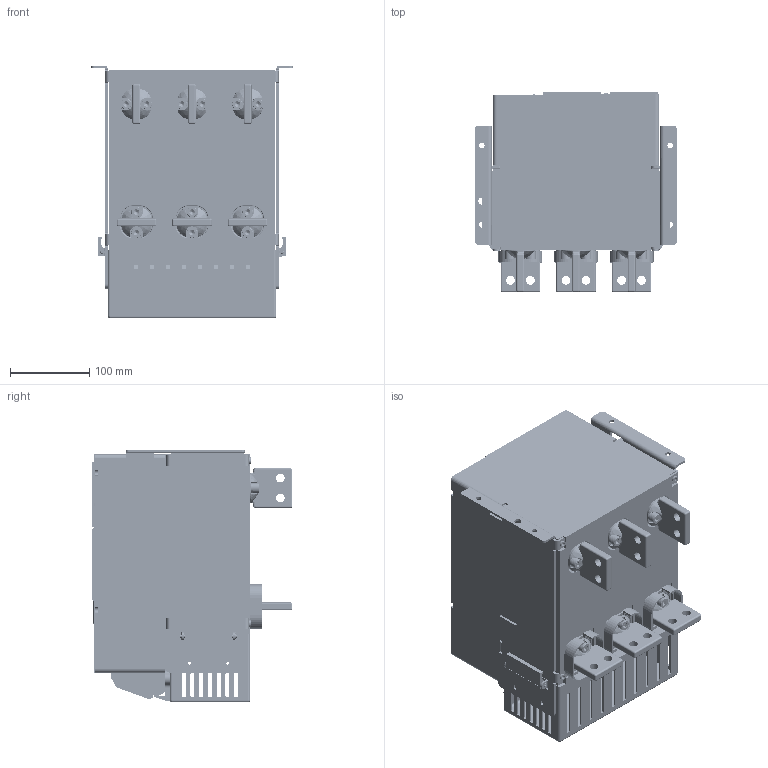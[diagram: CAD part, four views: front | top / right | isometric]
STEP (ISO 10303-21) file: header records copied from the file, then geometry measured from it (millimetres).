
FILE_DESCRIPTION((''),'2;1');
FILE_NAME('NA8-1600-3P-F-400A-800A-HV_ASM','2021-11-06T09:52:13',('lcc'),(''),'CREO PARAMETRIC BY PTC INC, 2020044','CREO PARAMETRIC BY PTC INC, 2020044','');
FILE_SCHEMA(('CONFIG_CONTROL_DESIGN','SHAPE_APPEARANCE_LAYERS_GROUPS'));
Products named in the file (52): 1600-JIZUO-3P; 1600-DIBAN-3P; 8ZTD-050-625; 8123A0726001; 8206A0312004; GBT896-3; 8210A0312014; 5ZTD-050-261_ASM; 8ZTD-050-626; 5ZTD-050-262_ASM; 8ZTD-300-472; 8ZTD-060-205; 8ZTD-321-089; 8ZTD-253-775; 8ZTD-253-776; 8ZTD-281-1000; 8282A0820014; 8ZTD-253-577; 8ZTD-235-356; 5ZTD-302-018_ASM; 8ZTD-064-138; 8ZTD-024-689; 8ZTD-860-511; 1600-DUANZI-CTS_ASM; 8-040-432; 8-004-030; 8-860-KZQ; 8-320-094; 8ZTD_210_353; 5ZTD_253_424_1; 5ZTD_253_424_2; 5ZTD_253_424_3; 5ZTD_253_424_4; 5ZTD_253_424_5; 5ZTD_253_424_6; 5ZTD_253_424_7; 5ZTD_253_424_8; 5ZTD_253_424_9; 5ZTD_253_424_10; 5ZTD_253_424_ASM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
Assembly tree (91 placements, depth 4):
  NA8-1600-3P-F-400A-800A-HV_ASM
    1600-JIZUO-3P
    1600-DIBAN-3P
    5ZTD-050-261_ASM
      8ZTD-050-625
      8123A0726001
      8206A0312004
      GBT896-3  x2
      8210A0312014  x2
    5ZTD-050-262_ASM
      8ZTD-050-626
      8123A0726001
      8206A0312004
      GBT896-3  x2
      8210A0312014  x2
    8ZTD-300-472
    5ZTD-302-018_ASM
      8ZTD-060-205
      8ZTD-321-089
      8ZTD-253-775
      8ZTD-253-776
      8ZTD-281-1000  x2
      8282A0820014
      8ZTD-253-577
      8ZTD-235-356
    1600-DUANZI-CTS_ASM
      8ZTD-064-138
      8ZTD-024-689  x14
      8ZTD-860-511
    8-040-432
    8-004-030
    8-860-KZQ
    8-320-094
    5ZTD-253-442_ASM
      5ZTD_253_424_ASM
        8ZTD_210_353
        5ZTD_253_424_1
        5ZTD_253_424_2
        5ZTD_253_424_3
        5ZTD_253_424_4
        5ZTD_253_424_5
        5ZTD_253_424_6
        5ZTD_253_424_7
        5ZTD_253_424_8
        5ZTD_253_424_9
        5ZTD_253_424_10
      8272A0314002
      8ZTD-206-1571
      GBT93_4
      GBT-6170-M4
      8288A0820012
    8580A0412005  x6
    8ZTD-210-346  x3
    QNKJ0200012_ASM  x12
      GBT70_1-M8X20
      GBT93-8
Bounding box: 254 x 252.18 x 318.5 mm (x, y, z)
Volume: 6579826.1 mm3; surface area: 1413948.1 mm2
Topology: 95 solids, 164 shells, 9274 faces, 25163 edges, 16460 vertices
Faces by surface type: plane 6321, cylinder 1651, extrusion 790, cone 239, bspline 132, torus 92, sphere 49
Entity records: 289135 total; most frequent: CARTESIAN_POINT 70942, ORIENTED_EDGE 34080, DIRECTION 30106, EDGE_CURVE 17277, PRESENTATION_STYLE_ASSIGNMENT 17247, STYLED_ITEM 17127, CURVE_STYLE 15875, VECTOR 13666
